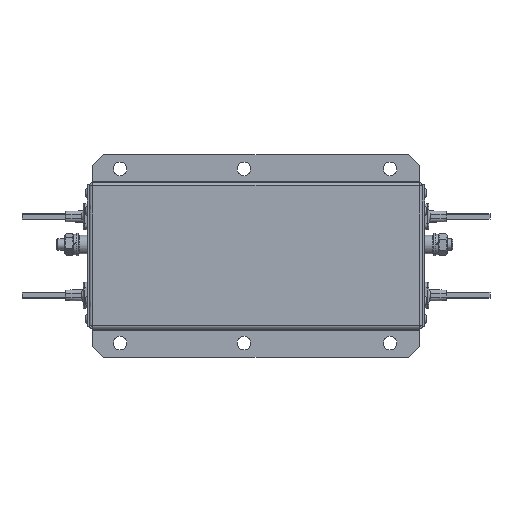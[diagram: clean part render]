
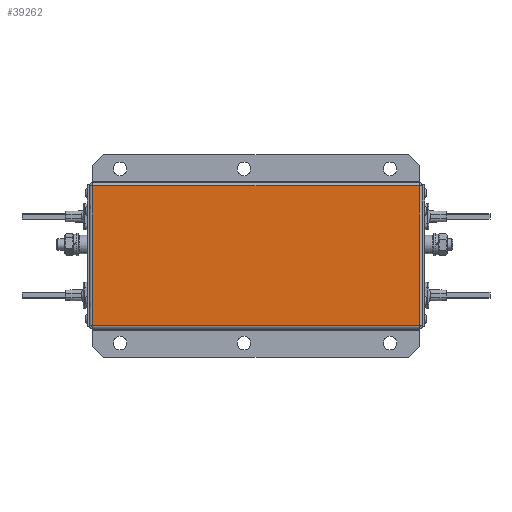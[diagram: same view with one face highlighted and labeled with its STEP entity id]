
A CAD part, top view. The second image highlights one B-rep face of the part: STEP entity #39262.
In plain terms, the highlighted planar face has unit normal (0, 0, 1).
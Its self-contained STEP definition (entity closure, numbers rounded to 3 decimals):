
#39126=CARTESIAN_POINT('',(-145.2,62.2,2.));
#39127=VERTEX_POINT('',#39126);
#39225=CARTESIAN_POINT('',(0.0,0.,2.0));
#39226=DIRECTION('',(0.0,0.0,1.0));
#39227=DIRECTION('',(1.0,0.0,0.0));
#39228=AXIS2_PLACEMENT_3D('',#39225,#39226,#39227);
#39229=PLANE('',#39228);
#39230=CARTESIAN_POINT('',(-145.2,-62.2,2.));
#39231=VERTEX_POINT('',#39230);
#39232=CARTESIAN_POINT('',(-145.2,62.2,2.0));
#39233=DIRECTION('',(0.0,-1.0,0.0));
#39234=VECTOR('',#39233,124.4);
#39235=LINE('',#39232,#39234);
#39236=EDGE_CURVE('',#39127,#39231,#39235,.T.);
#39237=ORIENTED_EDGE('',*,*,#39236,.T.);
#39238=CARTESIAN_POINT('',(145.2,-62.2,2.));
#39239=VERTEX_POINT('',#39238);
#39240=CARTESIAN_POINT('',(-145.2,-62.2,2.0));
#39241=DIRECTION('',(1.0,0.0,0.0));
#39242=VECTOR('',#39241,290.4);
#39243=LINE('',#39240,#39242);
#39244=EDGE_CURVE('',#39231,#39239,#39243,.T.);
#39245=ORIENTED_EDGE('',*,*,#39244,.T.);
#39246=CARTESIAN_POINT('',(145.2,62.2,2.));
#39247=VERTEX_POINT('',#39246);
#39248=CARTESIAN_POINT('',(145.2,-62.2,2.0));
#39249=DIRECTION('',(0.0,1.0,0.0));
#39250=VECTOR('',#39249,124.4);
#39251=LINE('',#39248,#39250);
#39252=EDGE_CURVE('',#39239,#39247,#39251,.T.);
#39253=ORIENTED_EDGE('',*,*,#39252,.T.);
#39254=CARTESIAN_POINT('',(145.2,62.2,2.0));
#39255=DIRECTION('',(-1.0,0.0,0.0));
#39256=VECTOR('',#39255,290.4);
#39257=LINE('',#39254,#39256);
#39258=EDGE_CURVE('',#39247,#39127,#39257,.T.);
#39259=ORIENTED_EDGE('',*,*,#39258,.T.);
#39260=EDGE_LOOP('',(#39237,#39245,#39253,#39259));
#39261=FACE_OUTER_BOUND('',#39260,.T.);
#39262=ADVANCED_FACE('',(#39261),#39229,.T.);
